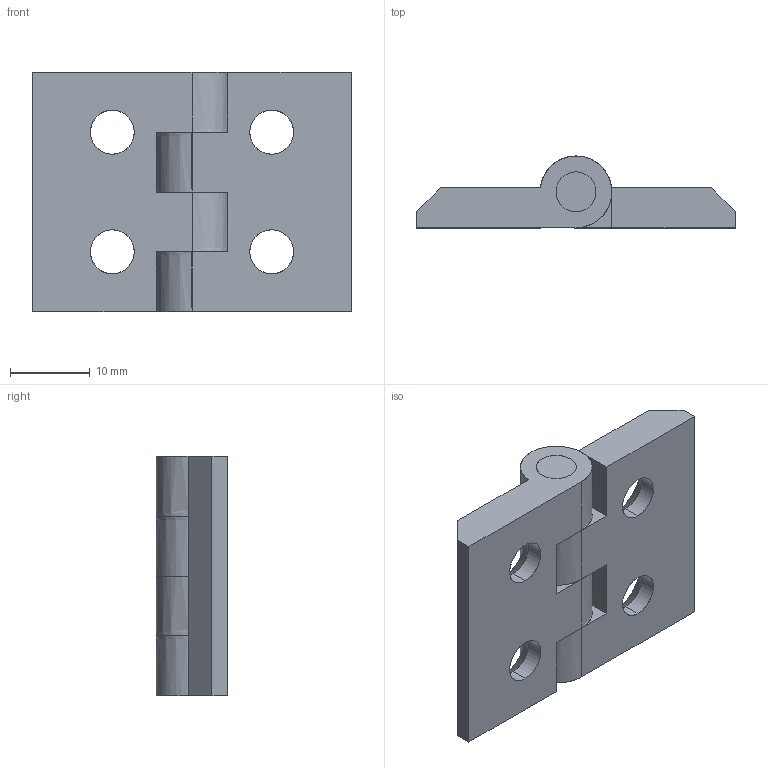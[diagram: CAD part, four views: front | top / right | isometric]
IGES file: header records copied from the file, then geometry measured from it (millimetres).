
Start section: SolidWorks IGES file using analytic representation for surfaces
Global section: file name: D:\LETROMEC CATALOGUE\Hinge\LIMA-HZC20X20-6\LIMA-HZC20X20.IGS; native system: SolidWorks 2013; preprocessor: SolidWorks 2013; author: User; date: 180315.205205; units: millimetre
Bounding box: 40 x 9 x 30 mm (x, y, z)
Surface area: 4705.6 mm2 (no closed solid volume)
Topology: 0 solids, 0 shells, 54 faces, 1076 edges, 1076 vertices
Faces by surface type: revolution 30, bspline 24
